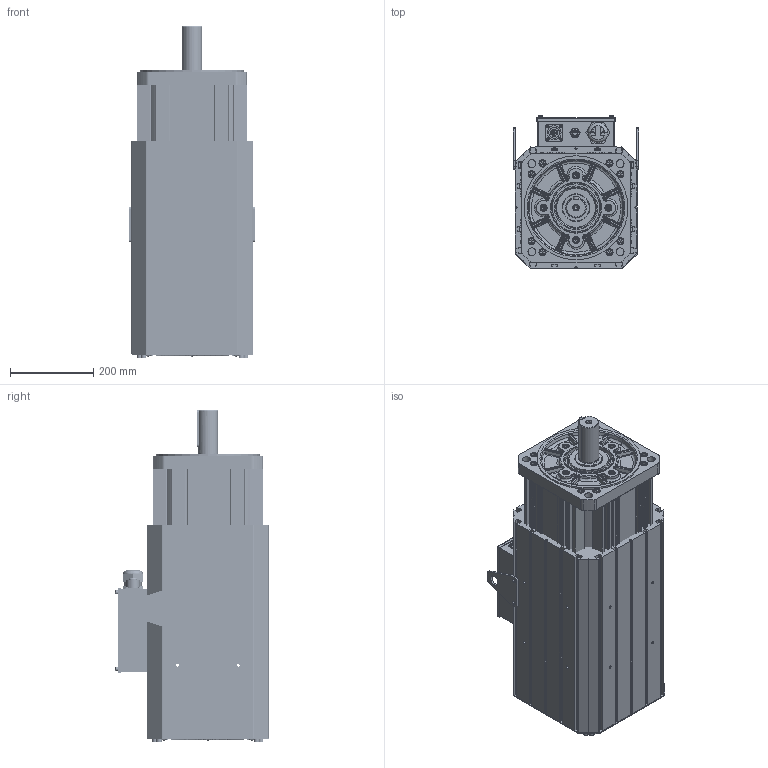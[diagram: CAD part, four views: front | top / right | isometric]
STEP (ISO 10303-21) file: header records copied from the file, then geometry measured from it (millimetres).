
FILE_DESCRIPTION (( 'STEP AP214' ), '1' );
FILE_NAME ('VM7-M26D-04515-D1FNH.STEP', '2022-04-02T01:13:29', ( '' ), ( '' ), 'SwSTEP 2.0', 'SolidWorks 2014', '' );
FILE_SCHEMA (( 'AUTOMOTIVE_DESIGN' ));
Length unit declared in the file: millimetre
Products named in the file (3): 俋褲; VM7-M26D-04515-D1FNH; 翋极
Assembly tree (2 placements, depth 2):
  VM7-M26D-04515-D1FNH
    翋极
    俋褲
Bounding box: 302 x 368.5 x 799 mm (x, y, z)
Volume: 18775861.8 mm3; surface area: 4079417.7 mm2
Topology: 120 solids, 120 shells, 4432 faces, 11332 edges, 7180 vertices
Faces by surface type: plane 2597, cylinder 1089, bspline 445, cone 301
Entity records: 152572 total; most frequent: CARTESIAN_POINT 45525, ORIENTED_EDGE 22412, DIRECTION 21224, EDGE_CURVE 11206, VECTOR 7212, LINE 7212, VERTEX_POINT 7180, AXIS2_PLACEMENT_3D 7006
